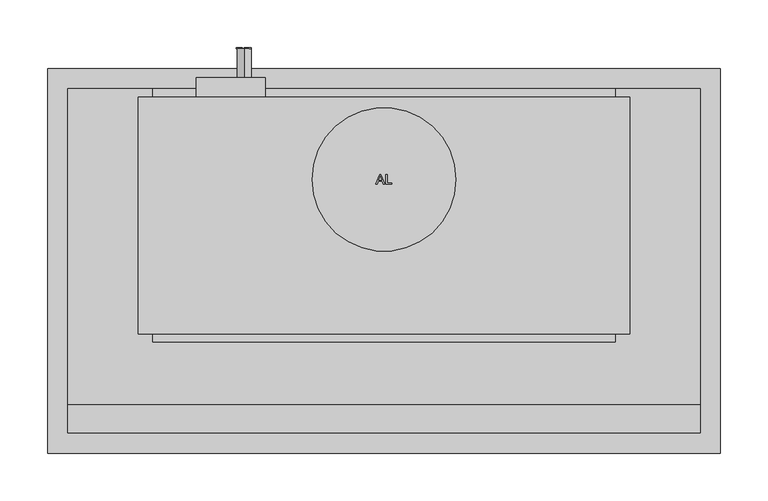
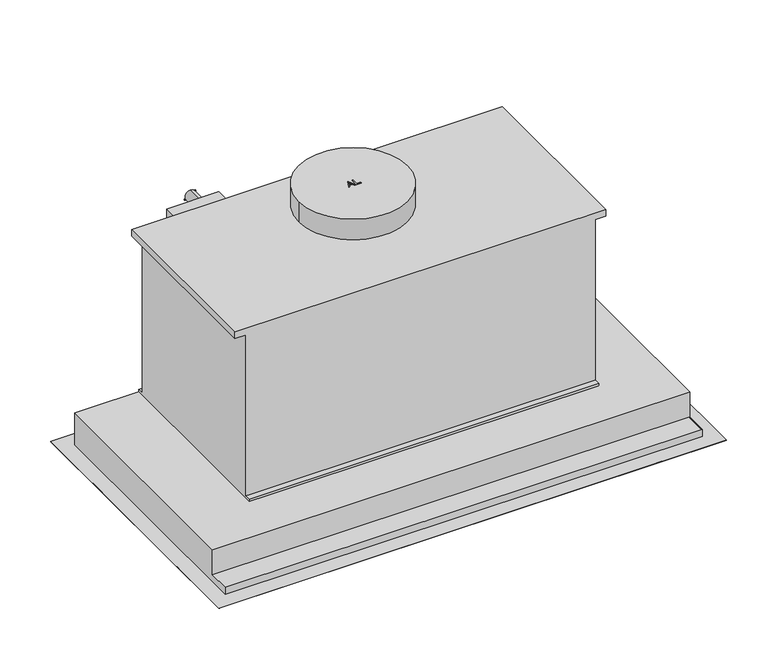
"""IFC4 building model written with IfcOpenShell, lengths in millimetres: proxy geometry, 10863210_RU_DA2578_EDST : 28257855_RU_10863210_DA2578_EDST."""

from ifc_helpers import new_model, si_unit, point, frame, frame_2d, origin, place, context, project, spatial, polyline, circle_curve, trimmed, segment, composite_curve, outline, extrude, faceted_brep, source, transform, mapped, element, save
from ifc_brep_helpers import plane_surface, revolved_surface, advanced_brep


def specialty_equipment_0e7397b8(model_context):
    return source(origin(), model_context, "Body", "SolidModel", [
        extrude(outline(polyline([(-14.75, -94.5), (272.0, -94.5), (272.0, -370.5), (-14.75, -370.5), (-14.75, -94.5)])), frame((0.0, 0.0, 2.0), z_axis=(0.0, 0.0, 1.0), x_axis=(1.0, 0.0, 0.0)), (0.0, 0.0, 1.0), 6.0),
        extrude(outline(polyline([(-23.75, -85.5), (281.0, -85.5), (281.0, -379.5), (-23.75, -379.5), (-23.75, -85.5)]), holes=[polyline([(-14.75, -94.5), (-14.75, -370.5), (272.0, -370.5), (272.0, -94.5), (-14.75, -94.5)])]), frame((0.0, 0.0, 0.5), z_axis=(0.0, 0.0, 1.0), x_axis=(1.0, 0.0, 0.0)), (0.0, 0.0, 1.0), 9.0),
        extrude(outline(polyline([(-32.75, -94.5), (-32.75, -370.5), (-319.5, -370.5), (-319.5, -94.5), (-32.75, -94.5)])), frame((0.0, 0.0, 2.0), z_axis=(0.0, 0.0, 1.0), x_axis=(1.0, 0.0, 0.0)), (0.0, 0.0, 1.0), 6.0),
        extrude(outline(polyline([(-23.75, -85.5), (-23.75, -379.5), (-328.5, -379.5), (-328.5, -85.5), (-23.75, -85.5)]), holes=[polyline([(-32.75, -94.5), (-319.5, -94.5), (-319.5, -370.5), (-32.75, -370.5), (-32.75, -94.5)])]), frame((0.0, 0.0, 0.5), z_axis=(0.0, 0.0, 1.0), x_axis=(1.0, 0.0, 0.0)), (0.0, 0.0, 1.0), 9.0),
        extrude(outline(polyline([(112.125, -327.5), (145.125, -327.5), (145.125, -370.5), (112.125, -370.5), (112.125, -327.5)]), holes=[polyline([(118.625, -334.0), (118.625, -343.0), (138.3964328, -343.0), (138.3964328, -334.0), (118.625, -334.0)])]), frame((0.0, 0.0, 0.5), z_axis=(0.0, 0.0, 1.0), x_axis=(1.0, 0.0, 0.0)), (0.0, 0.0, 1.0), 1.5),
        extrude(outline(polyline([(-159.625, -327.5), (-159.625, -370.5), (-192.625, -370.5), (-192.625, -327.5), (-159.625, -327.5)]), holes=[polyline([(-166.125, -334.0), (-186.125, -334.0), (-186.125, -343.0), (-166.125, -343.0), (-166.125, -334.0)])]), frame((0.0, 0.0, 0.5), z_axis=(0.0, 0.0, 1.0), x_axis=(1.0, 0.0, 0.0)), (0.0, 0.0, 1.0), 1.5),
        extrude(outline(composite_curve([segment(trimmed(circle_curve(frame_2d((0.0, -116.0)), 75.0), [point((75.0, -116.0))], [point((-75.0, -116.0))], False, "CARTESIAN"), True, "CONTINUOUS"), segment(trimmed(circle_curve(frame_2d((0.0, -116.0)), 75.0), [point((-75.0, -116.0))], [point((75.0, -116.0))], False, "CARTESIAN"), True, "CONTINUOUS")], self_intersect=False)), frame((0.0, 0.0, 295.0), z_axis=(0.0, 0.0, 1.0), x_axis=(1.0, 0.0, 0.0)), (0.0, 0.0, 1.0), 30.0),
        faceted_brep([(330.0, -21.0, 47.0), (-330.0, -21.0, 47.0), (-330.0, -351.0, 47.0), (330.0, -351.0, 47.0), (330.0, -21.0, 0.0), (330.0, -381.0, 0.0), (-330.0, -381.0, 0.0), (-330.0, -21.0, 0.0), (329.0, -22.0, 0.0), (-329.0, -22.0, 0.0), (-329.0, -380.0, 0.0), (329.0, -380.0, 0.0), (-330.0, -381.0, 10.4), (-330.0, -351.0, 10.4), (330.0, -381.0, 10.4), (330.0, -351.0, 10.4), (329.0, -22.0, 10.0), (329.0, -380.0, 10.0), (-329.0, -380.0, 10.0), (-329.0, -22.0, 10.0)], [[[0, 1, 2, 3]], [[4, 5, 6, 7], [8, 9, 10, 11]], [[1, 0, 4, 7]], [[7, 6, 12, 13, 2, 1]], [[6, 5, 14, 12]], [[5, 4, 0, 3, 15, 14]], [[16, 17, 18, 19]], [[16, 19, 9, 8]], [[19, 18, 10, 9]], [[18, 17, 11, 10]], [[17, 16, 8, 11]], [[15, 13, 12, 14]], [[13, 15, 3, 2]]]),
        faceted_brep([(351.0, 0.0, 0.0), (-351.0, 0.0, 0.0), (-351.0, -402.0, 0.0), (351.0, -402.0, 0.0), (-329.0, -22.0, 0.0), (329.0, -22.0, 0.0), (329.0, -380.0, 0.0), (-329.0, -380.0, 0.0), (-346.669873, -397.669873, -3.0), (-346.669873, -4.330127, -3.0), (346.669873, -4.330127, -3.0), (346.669873, -397.669873, -3.0), (329.0, -22.0, -3.0), (-329.0, -22.0, -3.0), (-329.0, -380.0, -3.0), (329.0, -380.0, -3.0), (351.0, 0.0, -0.5), (-351.0, 0.0, -0.5), (-351.0, -402.0, -0.5), (351.0, -402.0, -0.5)], [[[0, 1, 2, 3], [4, 5, 6, 7]], [[8, 9, 10, 11], [12, 13, 14, 15]], [[1, 0, 16, 17]], [[2, 1, 17, 18]], [[3, 2, 18, 19]], [[0, 3, 19, 16]], [[18, 17, 9, 8]], [[16, 19, 11, 10]], [[8, 11, 19, 18]], [[10, 9, 17, 16]], [[12, 5, 4, 13]], [[13, 4, 7, 14]], [[14, 7, 6, 15]], [[5, 12, 15, 6]]]),
        extrude(outline(polyline([(-8.547125, -121.0), (-4.5372113, -110.954369), (-3.4679009, -110.954369), (0.5420128, -121.0), (-0.7848149, -121.0), (-1.9350593, -117.8607403), (-6.0725055, -117.8607403), (-7.2202973, -121.0), (-8.547125, -121.0)]), holes=[polyline([(-5.6114267, -116.6050364), (-2.3936855, -116.6050364), (-3.2986752, -114.135322), (-4.0025561, -112.2100729), (-4.6279555, -113.9194979), (-5.6114267, -116.6050364)])]), frame((0.0, 0.0, 325.0), z_axis=(0.0, 0.0, 1.0), x_axis=(1.0, 0.0, 0.0)), (0.0, 0.0, 1.0), 1.0),
        extrude(outline(polyline([(1.8835558, -121.0), (1.8835558, -110.954369), (3.1392597, -110.954369), (3.1392597, -119.7442961), (8.1620752, -119.7442961), (8.1620752, -121.0), (1.8835558, -121.0)])), frame((0.0, 0.0, 325.0), z_axis=(0.0, 0.0, 1.0), x_axis=(1.0, 0.0, 0.0)), (0.0, 0.0, 1.0), 1.0),
        extrude(outline(polyline([(271.0, -138.6227397), (281.045631, -138.6227397), (281.045631, -145.843037), (279.7899271, -145.843037), (279.7899271, -139.8784436), (276.8076304, -139.8784436), (276.8076304, -145.529111), (275.5519266, -145.529111), (275.5519266, -139.8784436), (272.2557039, -139.8784436), (272.2557039, -146.0), (271.0, -146.0), (271.0, -138.6227397)])), frame((0.0, 20.6, 0.0), z_axis=(0.0, 1.0, 0.0), x_axis=(0.0, 0.0, 1.0)), (0.0, 0.0, 1.0), 1.0),
        extrude(outline(polyline([(271.0, -147.8835558), (281.045631, -147.8835558), (281.045631, -149.1392597), (272.2557039, -149.1392597), (272.2557039, -154.1620752), (271.0, -154.1620752), (271.0, -147.8835558)])), frame((0.0, 20.6, 0.0), z_axis=(0.0, 1.0, 0.0), x_axis=(0.0, 0.0, 1.0)), (0.0, 0.0, 1.0), 1.0),
        extrude(outline(composite_curve([segment(trimmed(circle_curve(frame_2d((276.0, -146.0)), 7.5), [point((268.5, -146.0))], [point((283.5, -146.0))], False, "CARTESIAN"), True, "CONTINUOUS"), segment(trimmed(circle_curve(frame_2d((276.0, -146.0)), 7.5), [point((283.5, -146.0))], [point((268.5, -146.0))], False, "CARTESIAN"), True, "CONTINUOUS")], self_intersect=False)), frame((0.0, -9.4, 0.0), z_axis=(0.0, 1.0, 0.0), x_axis=(0.0, 0.0, 1.0)), (0.0, 0.0, 1.0), 30.0),
        extrude(outline(polyline([(-124.0, -9.4), (-124.0, -29.7), (-196.0, -29.7), (-196.0, -9.4), (-124.0, -9.4)])), frame((0.0, 0.0, 265.3), z_axis=(0.0, 0.0, 1.0), x_axis=(1.0, 0.0, 0.0)), (0.0, 0.0, 1.0), 26.2),
        faceted_brep([(-241.5, -29.7, 285.5), (-256.5, -29.7, 285.5), (-256.5, -29.7, 295.0), (256.5, -29.7, 295.0), (256.5, -29.7, 285.5), (241.5, -29.7, 285.5), (241.5, -29.7, 50.5), (-241.5, -29.7, 50.5), (-256.5, -277.3, 295.0), (-256.5, -277.3, 285.5), (-241.5, -277.3, 285.5), (-241.5, -277.3, 50.5), (241.5, -277.3, 50.5), (241.5, -277.3, 285.5), (256.5, -277.3, 285.5), (256.5, -277.3, 295.0), (241.5, -286.0, 50.5), (241.5, -286.0, 47.0), (241.5, -21.0, 47.0), (241.5, -21.0, 50.5), (-241.5, -286.0, 50.5), (-241.5, -21.0, 50.5), (-241.5, -21.0, 47.0), (-241.5, -286.0, 47.0)], [[[0, 1, 2, 3, 4, 5, 6, 7]], [[8, 9, 10, 11, 12, 13, 14, 15]], [[1, 0, 10, 9]], [[2, 1, 9, 8]], [[3, 2, 8, 15]], [[4, 3, 15, 14]], [[5, 4, 14, 13]], [[16, 17, 18, 19, 6, 5, 13, 12]], [[20, 11, 10, 0, 7, 21, 22, 23]], [[18, 17, 23, 22]], [[19, 18, 22, 21]], [[6, 19, 21, 7]], [[17, 16, 20, 23]], [[16, 12, 11, 20]]]),
        extrude(outline(polyline([(328.5, -22.0), (328.5, -85.0), (-328.5, -85.0), (-328.5, -22.0), (328.5, -22.0)])), frame((0.0, 0.0, -1.0), z_axis=(0.0, 0.0, 1.0), x_axis=(1.0, 0.0, 0.0)), (0.0, 0.0, 1.0), 8.0),
        advanced_brep(
        [(150.0, -55.0, -1.0), (125.0, -55.0, -1.0), (175.0, -55.0, -1.0), (173.571852, -55.0, -2.0), (126.428148, -55.0, -2.0), (150.0, -55.0, -2.0)],
        [
            (0, 1),
            (1, 2, circle_curve(frame((150.0, -55.0, -1.0), z_axis=(0.0, 0.0, 1.0), x_axis=(-1.0, 0.0, 0.0)), 25.0)),
            (2, 0),
            (2, 1, circle_curve(frame((150.0, -55.0, -1.0), z_axis=(0.0, 0.0, 1.0), x_axis=(-1.0, 0.0, 0.0)), 25.0)),
            (3, 4, circle_curve(frame((150.0, -55.0, -2.0), z_axis=(0.0, 0.0, -1.0), x_axis=(-1.0, 0.0, 0.0)), 23.571852)),
            (4, 5),
            (5, 3),
            (4, 3, circle_curve(frame((150.0, -55.0, -2.0), z_axis=(0.0, 0.0, -1.0), x_axis=(-1.0, 0.0, 0.0)), 23.571852)),
            (1, 4),
            (3, 2),
        ],
        [
            plane_surface(frame((150.0, -55.0, -1.0), z_axis=(0.0, 0.0, 1.0), x_axis=(-1.0, 0.0, 0.0))),
            plane_surface(frame((150.0, -55.0, -2.0), z_axis=(0.0, 0.0, -1.0), x_axis=(-1.0, 0.0, 0.0))),
            revolved_surface(polyline([(126.428148, -55.0, -2.0), (125.0, -55.0, -1.0)]), (150.0, -55.0, 2137.4), (0.0, 0.0, 1.0)),
        ],
        [
            (0, [[1, 2, 3]]),
            (0, [[-3, 4, -1]]),
            (1, [[5, 6, 7]]),
            (1, [[8, -7, -6]]),
            (2, [[-2, 9, -5, 10]]),
            (2, [[-4, -10, -8, -9]]),
        ],
    ),
        advanced_brep(
        [(-150.0, -55.0, -1.0), (-175.0, -55.0, -1.0), (-125.0, -55.0, -1.0), (-126.428148, -55.0, -2.0), (-173.571852, -55.0, -2.0), (-150.0, -55.0, -2.0)],
        [
            (0, 1),
            (1, 2, circle_curve(frame((-150.0, -55.0, -1.0), z_axis=(0.0, 0.0, 1.0), x_axis=(-1.0, 0.0, 0.0)), 25.0)),
            (2, 0),
            (2, 1, circle_curve(frame((-150.0, -55.0, -1.0), z_axis=(0.0, 0.0, 1.0), x_axis=(-1.0, 0.0, 0.0)), 25.0)),
            (3, 4, circle_curve(frame((-150.0, -55.0, -2.0), z_axis=(0.0, 0.0, -1.0), x_axis=(-1.0, 0.0, 0.0)), 23.571852)),
            (4, 5),
            (5, 3),
            (4, 3, circle_curve(frame((-150.0, -55.0, -2.0), z_axis=(0.0, 0.0, -1.0), x_axis=(-1.0, 0.0, 0.0)), 23.571852)),
            (1, 4),
            (3, 2),
        ],
        [
            plane_surface(frame((-150.0, -55.0, -1.0), z_axis=(0.0, 0.0, 1.0), x_axis=(-1.0, 0.0, 0.0))),
            plane_surface(frame((-150.0, -55.0, -2.0), z_axis=(0.0, 0.0, -1.0), x_axis=(-1.0, 0.0, 0.0))),
            revolved_surface(polyline([(-173.571852, -55.0, -2.0), (-175.0, -55.0, -1.0)]), (-150.0, -55.0, 2137.4), (0.0, 0.0, 1.0)),
        ],
        [
            (0, [[1, 2, 3]]),
            (0, [[-3, 4, -1]]),
            (1, [[5, 6, 7]]),
            (1, [[8, -7, -6]]),
            (2, [[-2, 9, -5, 10]]),
            (2, [[-4, -10, -8, -9]]),
        ],
    ),
        extrude(outline(composite_curve([segment(polyline([(-1.4, 309.0), (0.2, 309.0), (0.2, 301.0), (-1.4, 301.0)]), True, "CONTINUOUS"), segment(trimmed(circle_curve(frame_2d((23.2, 305.0)), 24.9230817), [point((-1.4, 301.0))], [point((-1.4, 309.0))], False, "CARTESIAN"), True, "CONTINUOUS")], self_intersect=False)), frame((0.0, -145.25, 0.0), z_axis=(0.0, 1.0, 0.0), x_axis=(0.0, 0.0, 1.0)), (0.0, 0.0, 1.0), 25.25),
        extrude(outline(composite_curve([segment(polyline([(0.2, 309.0), (0.2, 301.0), (-1.4, 301.0)]), True, "CONTINUOUS"), segment(trimmed(circle_curve(frame_2d((23.2, 305.0)), 24.9230817), [point((-1.4, 301.0))], [point((-1.4, 309.0))], False, "CARTESIAN"), True, "CONTINUOUS"), segment(polyline([(-1.4, 309.0), (0.2, 309.0)]), True, "CONTINUOUS")], self_intersect=False)), frame((0.0, -328.5, 0.0), z_axis=(0.0, 1.0, 0.0), x_axis=(0.0, 0.0, 1.0)), (0.0, 0.0, 1.0), 25.25),
        extrude(outline(composite_curve([segment(polyline([(-1.4, 309.0), (0.2, 309.0), (0.2, 301.0), (-1.4, 301.0)]), True, "CONTINUOUS"), segment(trimmed(circle_curve(frame_2d((23.2, 305.0)), 24.9230817), [point((-1.4, 301.0))], [point((-1.4, 309.0))], False, "CARTESIAN"), True, "CONTINUOUS")], self_intersect=False)), frame((0.0, -197.25, 0.0), z_axis=(0.0, 1.0, 0.0), x_axis=(0.0, 0.0, 1.0)), (0.0, 0.0, 1.0), 25.0),
        extrude(outline(composite_curve([segment(polyline([(-1.4, 309.0), (0.2, 309.0), (0.2, 301.0), (-1.4, 301.0)]), True, "CONTINUOUS"), segment(trimmed(circle_curve(frame_2d((23.2, 305.0)), 24.9230817), [point((-1.4, 301.0))], [point((-1.4, 309.0))], False, "CARTESIAN"), True, "CONTINUOUS")], self_intersect=False)), frame((0.0, -250.25, 0.0), z_axis=(0.0, 1.0, 0.0), x_axis=(0.0, 0.0, 1.0)), (0.0, 0.0, 1.0), 52.0),
        extrude(outline(composite_curve([segment(polyline([(-1.4, 309.0), (0.2, 309.0), (0.2, 301.0), (-1.4, 301.0)]), True, "CONTINUOUS"), segment(trimmed(circle_curve(frame_2d((23.2, 305.0)), 24.9230817), [point((-1.4, 301.0))], [point((-1.4, 309.0))], False, "CARTESIAN"), True, "CONTINUOUS")], self_intersect=False)), frame((0.0, -276.25, 0.0), z_axis=(0.0, 1.0, 0.0), x_axis=(0.0, 0.0, 1.0)), (0.0, 0.0, 1.0), 25.0),
        extrude(outline(composite_curve([segment(polyline([(-1.4, 309.0), (0.2, 309.0), (0.2, 301.0), (-1.4, 301.0)]), True, "CONTINUOUS"), segment(trimmed(circle_curve(frame_2d((23.2, 305.0)), 24.9230817), [point((-1.4, 301.0))], [point((-1.4, 309.0))], False, "CARTESIAN"), True, "CONTINUOUS")], self_intersect=False)), frame((0.0, -302.25, 0.0), z_axis=(0.0, 1.0, 0.0), x_axis=(0.0, 0.0, 1.0)), (0.0, 0.0, 1.0), 25.0),
        extrude(outline(composite_curve([segment(polyline([(-1.4, 309.0), (0.2, 309.0), (0.2, 301.0), (-1.4, 301.0)]), True, "CONTINUOUS"), segment(trimmed(circle_curve(frame_2d((23.2, 305.0)), 24.9230817), [point((-1.4, 301.0))], [point((-1.4, 309.0))], False, "CARTESIAN"), True, "CONTINUOUS")], self_intersect=False)), frame((0.0, -171.25, 0.0), z_axis=(0.0, 1.0, 0.0), x_axis=(0.0, 0.0, 1.0)), (0.0, 0.0, 1.0), 25.0),
        extrude(outline(polyline([(328.5, -85.0), (328.5, -379.5), (281.5, -379.5), (281.5, -85.0), (328.5, -85.0)])), frame((0.0, 0.0, 0.2), z_axis=(0.0, 0.0, 1.0), x_axis=(1.0, 0.0, 0.0)), (0.0, 0.0, 1.0), 2.0),
    ])


if __name__ == "__main__":
    model = new_model("IFC4")
    model_context = context("Model", 3, world=origin())
    ifc_project = project(units=[si_unit("LENGTHUNIT", "METRE", prefix="MILLI")], contexts=[model_context])
    site = spatial("IfcSite", under=ifc_project)
    building = spatial("IfcBuilding", under=site)
    placement = place(None, origin())
    specialty_equipment_shape = specialty_equipment_0e7397b8(model_context)
    element("IfcBuildingElementProxy", 1, Name="10863210_RU_DA2578_EDST : 28257855_RU_10863210_DA2578_EDST", ObjectType="10863210_RU_DA2578_EDST : 28257855_RU_10863210_DA2578_EDST", at=placement, inside=building, context=model_context, shape_type="MappedRepresentation", body=[
        mapped(specialty_equipment_shape, transform((0.0, 0.0, 0.0), x_axis=(1.0, 0.0, 0.0), y_axis=(0.0, 1.0, 0.0), z_axis=(0.0, 0.0, 1.0))),
    ])
    save(model, "model.ifc")
